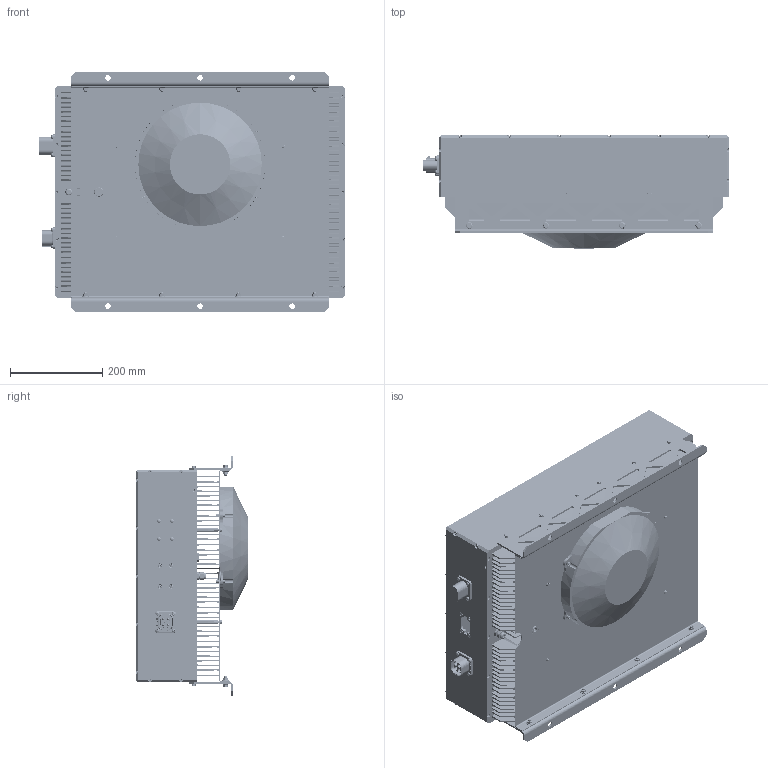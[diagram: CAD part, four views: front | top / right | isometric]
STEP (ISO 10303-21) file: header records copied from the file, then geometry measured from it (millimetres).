
FILE_DESCRIPTION (( 'STEP AP214' ), '1' );
FILE_NAME ('ﾐﾃﾋﾑ.435311.001 ﾁﾇﾓ.STEP', '2026-08-24T13:34:38', ( '' ), ( '' ), 'SwSTEP 2.0', 'SolidWorks 2022', '' );
FILE_SCHEMA (( 'AUTOMOTIVE_DESIGN' ));
Length unit declared in the file: millimetre
Products named in the file (1): РГЛС.435311.001 БЗУ
Bounding box: 665 x 245 x 520 mm (x, y, z)
Volume: 9616999.1 mm3; surface area: 4497473.6 mm2
Topology: 153 solids, 156 shells, 9008 faces, 22485 edges, 13810 vertices
Faces by surface type: bspline 2934, plane 2753, cylinder 1674, cone 1345, torus 278, sphere 24
Entity records: 453404 total; most frequent: CARTESIAN_POINT 103570, ORIENTED_EDGE 50960, DIRECTION 44664, EDGE_CURVE 25480, VERTEX_POINT 15917, VECTOR 14932, LINE 14932, AXIS2_PLACEMENT_3D 14866
